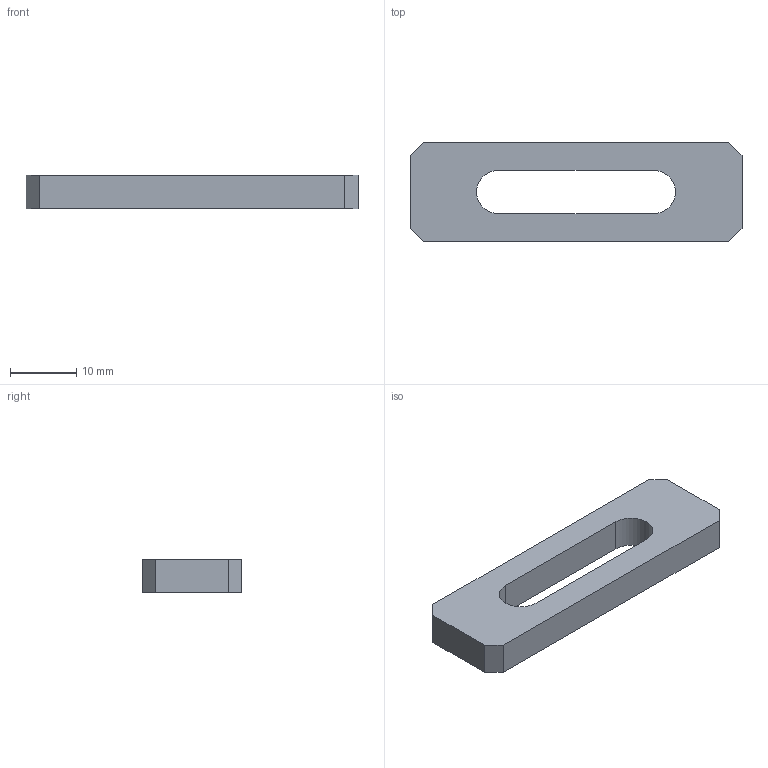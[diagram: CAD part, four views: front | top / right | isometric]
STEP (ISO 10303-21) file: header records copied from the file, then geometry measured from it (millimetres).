
FILE_DESCRIPTION((''),'2;1');
FILE_NAME('BO_VC_RAIL_R0006NP001','2026-03-29T10:35:13',('Admin'),(''),'CREO PARAMETRIC BY PTC INC, 2025010','CREO PARAMETRIC BY PTC INC, 2025010','');
FILE_SCHEMA(('CONFIG_CONTROL_DESIGN'));
Length unit declared in the file: millimetre
Products named in the file (1): BO_VC_RAIL_R0006NP001
Bounding box: 50 x 15 x 5 mm (x, y, z)
Volume: 2780.3 mm3; surface area: 2075.8 mm2
Topology: 1 solids, 1 shells, 14 faces, 36 edges, 24 vertices
Faces by surface type: plane 12, cylinder 2
Entity records: 466 total; most frequent: CARTESIAN_POINT 74, ORIENTED_EDGE 72, DIRECTION 68, EDGE_CURVE 36, VECTOR 32, LINE 32, VERTEX_POINT 24, AXIS2_PLACEMENT_3D 18
